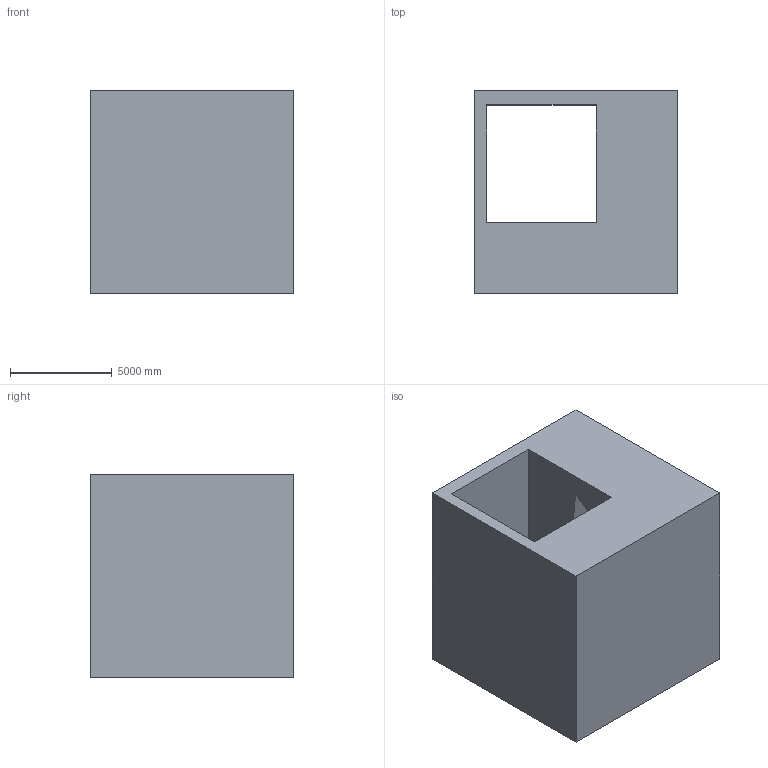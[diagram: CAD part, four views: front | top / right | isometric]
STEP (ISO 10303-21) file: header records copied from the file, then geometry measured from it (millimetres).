
FILE_DESCRIPTION (( 'STEP AP203' ), '1' );
FILE_NAME ('0.STEP', '2022-09-02T13:37:46', ( 'user' ), ( '' ), 'SwSTEP 2.0', 'SolidWorks 2021', '' );
FILE_SCHEMA (( 'CONFIG_CONTROL_DESIGN' ));
Length unit declared in the file: centimetre
Products named in the file (1): 0
Bounding box: 10000 x 10000 x 10000 mm (x, y, z)
Volume: 587239356836.8 mm3; surface area: 827054687.7 mm2
Topology: 1 solids, 1 shells, 14 faces, 39 edges, 26 vertices
Faces by surface type: plane 14
Entity records: 528 total; most frequent: CARTESIAN_POINT 80, ORIENTED_EDGE 78, DIRECTION 69, LINE 39, EDGE_CURVE 39, VECTOR 39, VERTEX_POINT 26, EDGE_LOOP 17
